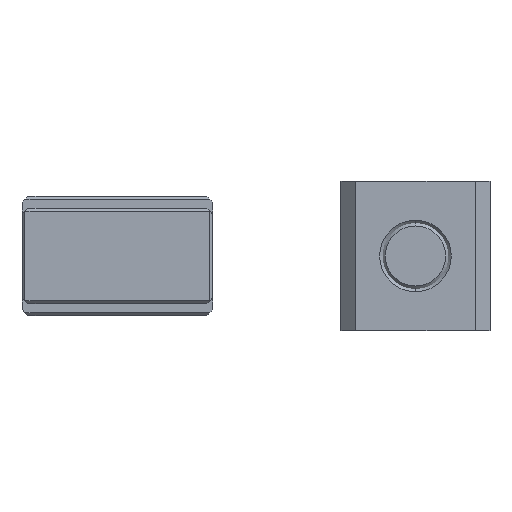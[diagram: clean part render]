
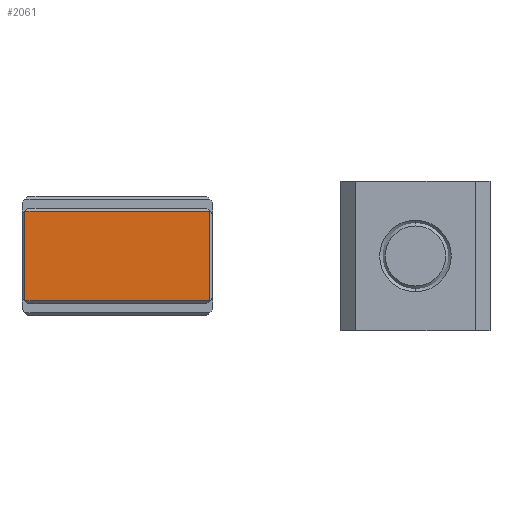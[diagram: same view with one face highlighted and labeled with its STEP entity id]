
A CAD part, front view. The second image highlights one B-rep face of the part: STEP entity #2061.
In plain terms, the highlighted planar face has unit normal (0, -1, 0) as drawn and (0, 1, 0) by its records, which use the part's own axes.
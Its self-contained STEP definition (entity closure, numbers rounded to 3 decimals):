
#78 = EDGE_LOOP ( 'NONE', ( #744, #999, #1955, #1539 ) ) ;
#184 = VERTEX_POINT ( 'NONE', #1270 ) ;
#201 = CARTESIAN_POINT ( 'NONE',  ( 16., 14., 7.5 ) ) ;
#317 = CARTESIAN_POINT ( 'NONE',  ( -15.5, 14., 8. ) ) ;
#360 = DIRECTION ( 'NONE',  ( 0., 0., -1. ) ) ;
#422 = CARTESIAN_POINT ( 'NONE',  ( 15.5, 14., -7.5 ) ) ;
#506 = PLANE ( 'NONE',  #1518 ) ;
#675 = EDGE_CURVE ( 'NONE', #1726, #1196, #1598, .T. ) ;
#744 = ORIENTED_EDGE ( 'NONE', *, *, #1723, .T. ) ;
#868 = DIRECTION ( 'NONE',  ( 0., -1., 0. ) ) ;
#886 = CARTESIAN_POINT ( 'NONE',  ( 16., 14., -7.5 ) ) ;
#988 = FACE_OUTER_BOUND ( 'NONE', #78, .T. ) ;
#999 = ORIENTED_EDGE ( 'NONE', *, *, #675, .T. ) ;
#1076 = EDGE_CURVE ( 'NONE', #1196, #184, #1132, .T. ) ;
#1117 = VECTOR ( 'NONE', #1593, 1000. ) ;
#1132 = LINE ( 'NONE', #201, #2022 ) ;
#1178 = LINE ( 'NONE', #886, #1235 ) ;
#1196 = VERTEX_POINT ( 'NONE', #1497 ) ;
#1235 = VECTOR ( 'NONE', #2220, 1000. ) ;
#1270 = CARTESIAN_POINT ( 'NONE',  ( 15.5, 14., 7.5 ) ) ;
#1365 = EDGE_CURVE ( 'NONE', #184, #1813, #2266, .T. ) ;
#1449 = CARTESIAN_POINT ( 'NONE',  ( 15.5, 14., -8. ) ) ;
#1497 = CARTESIAN_POINT ( 'NONE',  ( -15.5, 14., 7.5 ) ) ;
#1518 = AXIS2_PLACEMENT_3D ( 'NONE', #1778, #868, #1573 ) ;
#1539 = ORIENTED_EDGE ( 'NONE', *, *, #1365, .T. ) ;
#1573 = DIRECTION ( 'NONE',  ( 0., 0., -1. ) ) ;
#1593 = DIRECTION ( 'NONE',  ( 0., 0., 1. ) ) ;
#1598 = LINE ( 'NONE', #317, #1117 ) ;
#1723 = EDGE_CURVE ( 'NONE', #1813, #1726, #1178, .T. ) ;
#1726 = VERTEX_POINT ( 'NONE', #1879 ) ;
#1778 = CARTESIAN_POINT ( 'NONE',  ( 16., 14., -8. ) ) ;
#1813 = VERTEX_POINT ( 'NONE', #422 ) ;
#1879 = CARTESIAN_POINT ( 'NONE',  ( -15.5, 14., -7.5 ) ) ;
#1931 = VECTOR ( 'NONE', #360, 1000. ) ;
#1955 = ORIENTED_EDGE ( 'NONE', *, *, #1076, .T. ) ;
#2003 = DIRECTION ( 'NONE',  ( 1., 0., 0. ) ) ;
#2022 = VECTOR ( 'NONE', #2003, 1000. ) ;
#2061 = ADVANCED_FACE ( 'NONE', ( #988 ), #506, .F. ) ;
#2220 = DIRECTION ( 'NONE',  ( -1., 0., 0. ) ) ;
#2266 = LINE ( 'NONE', #1449, #1931 ) ;
